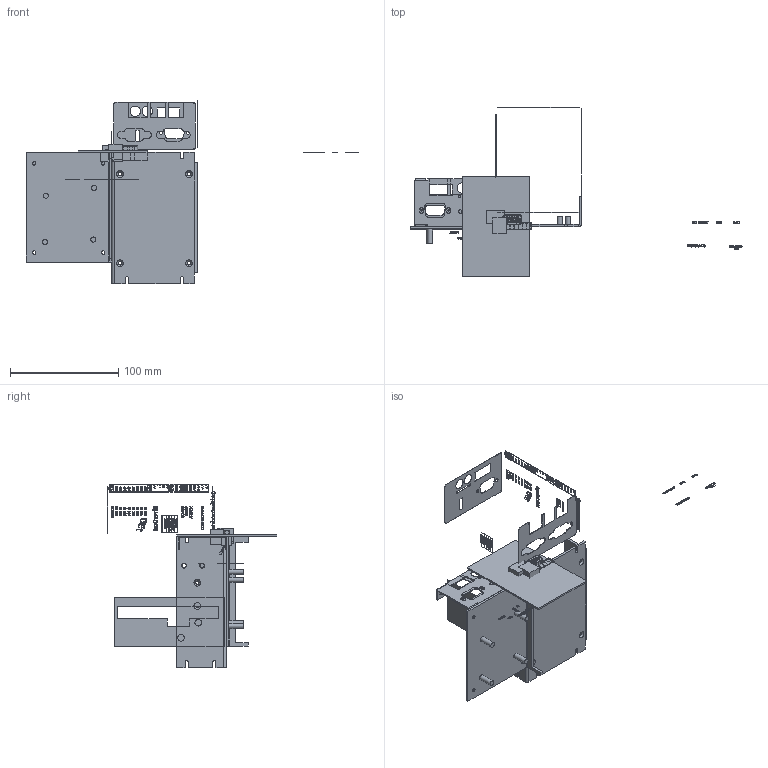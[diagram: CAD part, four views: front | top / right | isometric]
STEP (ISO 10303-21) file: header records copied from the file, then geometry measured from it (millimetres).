
FILE_DESCRIPTION(/* description */ ('Alibre Inc.'),/* implementation_level */ '2;1');
FILE_NAME(/* name */ 'export0',/* time_stamp */ '2008-02-21T07:52:06-08:00',/* author */ (''),/* organization */ (''),/* preprocessor_version */ 'ST-DEVELOPER v10',/* originating_system */ 'Alibre',/* authorisation */ '');
FILE_SCHEMA (('ALIBRE_SCHEMA','CONFIG_CONTROL_DESIGN'));
Length unit declared in the file: inch
Products named in the file (27): ID_1; TDG1026KS-C5E; ID_2
Bounding box: 306.75 x 156.41 x 169.19 mm (x, y, z)
Volume: 84608.3 mm3; surface area: 117711.2 mm2
Topology: 380 solids, 380 shells, 7344 faces, 18746 edges, 12384 vertices
Faces by surface type: plane 4415, bspline 2083, cylinder 740, torus 90, cone 15, revolution 1
Full cylindrical faces by diameter (mm): 1.4 x23, 1.883 x4, 2.349 x3, 2.489 x1, 2.515 x8, 2.616 x1, 2.87 x1, 2.887 x1, 2.921 x3, 3.121 x1, 3.175 x12, 3.244 x8, 3.81 x2, 4.572 x2, 4.75 x7, 7.874 x2, 9.525 x5
Entity records: 454242 total; most frequent: CARTESIAN_POINT 159236, ORIENTED_EDGE 44328, DIRECTION 32145, EDGE_CURVE 22150, VECTOR 19839, LINE 18120, CONSTRAINTPAIRUV 17237, PERSISTANTTOPOLOGYATTRIBUTE 16005
